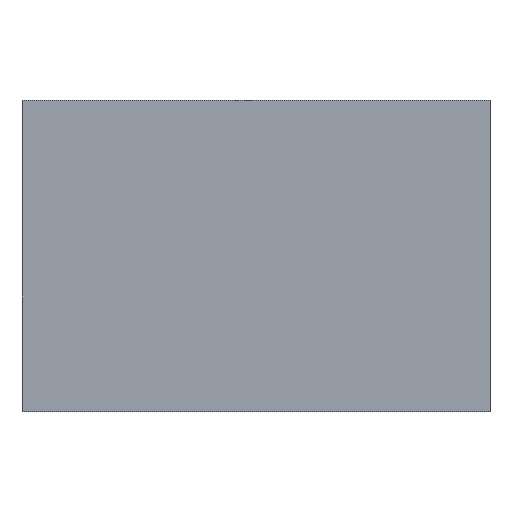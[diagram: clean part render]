
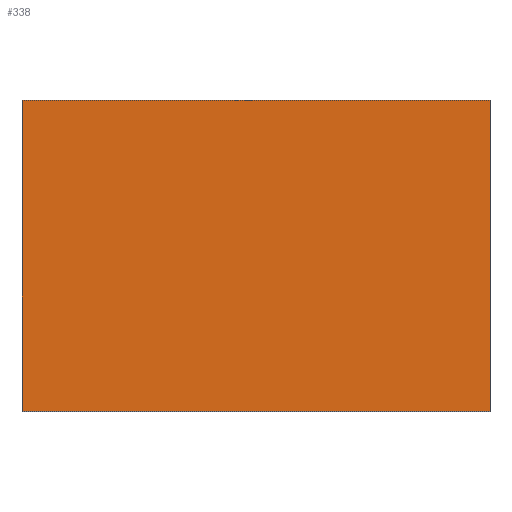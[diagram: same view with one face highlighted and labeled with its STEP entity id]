
A CAD part, top view. The second image highlights one B-rep face of the part: STEP entity #338.
In plain terms, the highlighted planar face has unit normal (0, 0, 1).
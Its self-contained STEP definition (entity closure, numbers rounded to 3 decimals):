
#24 = VERTEX_POINT('',#25);
#25 = CARTESIAN_POINT('',(-4.05,-2.69,2.16));
#32 = PLANE('',#33);
#33 = AXIS2_PLACEMENT_3D('',#34,#35,#36);
#34 = CARTESIAN_POINT('',(-4.05,-2.69,0.));
#35 = DIRECTION('',(1.,0.,0.));
#36 = DIRECTION('',(0.,0.,1.));
#44 = PLANE('',#45);
#45 = AXIS2_PLACEMENT_3D('',#46,#47,#48);
#46 = CARTESIAN_POINT('',(-4.05,-2.69,0.));
#47 = DIRECTION('',(0.,1.,0.));
#48 = DIRECTION('',(0.,0.,1.));
#85 = VERTEX_POINT('',#86);
#86 = CARTESIAN_POINT('',(-4.05,2.69,2.16));
#100 = PLANE('',#101);
#101 = AXIS2_PLACEMENT_3D('',#102,#103,#104);
#102 = CARTESIAN_POINT('',(-4.05,2.69,0.));
#103 = DIRECTION('',(0.,1.,0.));
#104 = DIRECTION('',(0.,0.,1.));
#112 = EDGE_CURVE('',#24,#85,#113,.T.);
#113 = SURFACE_CURVE('',#114,(#118,#125),.PCURVE_S1.);
#114 = LINE('',#115,#116);
#115 = CARTESIAN_POINT('',(-4.05,-2.69,2.16));
#116 = VECTOR('',#117,1.);
#117 = DIRECTION('',(0.,1.,0.));
#118 = PCURVE('',#32,#119);
#119 = DEFINITIONAL_REPRESENTATION('',(#120),#124);
#120 = LINE('',#121,#122);
#121 = CARTESIAN_POINT('',(2.16,0.));
#122 = VECTOR('',#123,1.);
#123 = DIRECTION('',(0.,-1.));
#124 = ( GEOMETRIC_REPRESENTATION_CONTEXT(2) 
PARAMETRIC_REPRESENTATION_CONTEXT() REPRESENTATION_CONTEXT('2D SPACE',''
  ) );
#125 = PCURVE('',#126,#131);
#126 = PLANE('',#127);
#127 = AXIS2_PLACEMENT_3D('',#128,#129,#130);
#128 = CARTESIAN_POINT('',(-4.05,-2.69,2.16));
#129 = DIRECTION('',(0.,0.,1.));
#130 = DIRECTION('',(1.,0.,0.));
#131 = DEFINITIONAL_REPRESENTATION('',(#132),#136);
#132 = LINE('',#133,#134);
#133 = CARTESIAN_POINT('',(0.,0.));
#134 = VECTOR('',#135,1.);
#135 = DIRECTION('',(0.,1.));
#136 = ( GEOMETRIC_REPRESENTATION_CONTEXT(2) 
PARAMETRIC_REPRESENTATION_CONTEXT() REPRESENTATION_CONTEXT('2D SPACE',''
  ) );
#144 = VERTEX_POINT('',#145);
#145 = CARTESIAN_POINT('',(4.05,-2.69,2.16));
#152 = PLANE('',#153);
#153 = AXIS2_PLACEMENT_3D('',#154,#155,#156);
#154 = CARTESIAN_POINT('',(4.05,-2.69,0.));
#155 = DIRECTION('',(1.,0.,0.));
#156 = DIRECTION('',(0.,0.,1.));
#195 = VERTEX_POINT('',#196);
#196 = CARTESIAN_POINT('',(4.05,2.69,2.16));
#217 = EDGE_CURVE('',#144,#195,#218,.T.);
#218 = SURFACE_CURVE('',#219,(#223,#230),.PCURVE_S1.);
#219 = LINE('',#220,#221);
#220 = CARTESIAN_POINT('',(4.05,-2.69,2.16));
#221 = VECTOR('',#222,1.);
#222 = DIRECTION('',(0.,1.,0.));
#223 = PCURVE('',#152,#224);
#224 = DEFINITIONAL_REPRESENTATION('',(#225),#229);
#225 = LINE('',#226,#227);
#226 = CARTESIAN_POINT('',(2.16,0.));
#227 = VECTOR('',#228,1.);
#228 = DIRECTION('',(0.,-1.));
#229 = ( GEOMETRIC_REPRESENTATION_CONTEXT(2) 
PARAMETRIC_REPRESENTATION_CONTEXT() REPRESENTATION_CONTEXT('2D SPACE',''
  ) );
#230 = PCURVE('',#126,#231);
#231 = DEFINITIONAL_REPRESENTATION('',(#232),#236);
#232 = LINE('',#233,#234);
#233 = CARTESIAN_POINT('',(8.1,0.));
#234 = VECTOR('',#235,1.);
#235 = DIRECTION('',(0.,1.));
#236 = ( GEOMETRIC_REPRESENTATION_CONTEXT(2) 
PARAMETRIC_REPRESENTATION_CONTEXT() REPRESENTATION_CONTEXT('2D SPACE',''
  ) );
#263 = EDGE_CURVE('',#24,#144,#264,.T.);
#264 = SURFACE_CURVE('',#265,(#269,#276),.PCURVE_S1.);
#265 = LINE('',#266,#267);
#266 = CARTESIAN_POINT('',(-4.05,-2.69,2.16));
#267 = VECTOR('',#268,1.);
#268 = DIRECTION('',(1.,0.,0.));
#269 = PCURVE('',#44,#270);
#270 = DEFINITIONAL_REPRESENTATION('',(#271),#275);
#271 = LINE('',#272,#273);
#272 = CARTESIAN_POINT('',(2.16,0.));
#273 = VECTOR('',#274,1.);
#274 = DIRECTION('',(0.,1.));
#275 = ( GEOMETRIC_REPRESENTATION_CONTEXT(2) 
PARAMETRIC_REPRESENTATION_CONTEXT() REPRESENTATION_CONTEXT('2D SPACE',''
  ) );
#276 = PCURVE('',#126,#277);
#277 = DEFINITIONAL_REPRESENTATION('',(#278),#282);
#278 = LINE('',#279,#280);
#279 = CARTESIAN_POINT('',(0.,0.));
#280 = VECTOR('',#281,1.);
#281 = DIRECTION('',(1.,0.));
#282 = ( GEOMETRIC_REPRESENTATION_CONTEXT(2) 
PARAMETRIC_REPRESENTATION_CONTEXT() REPRESENTATION_CONTEXT('2D SPACE',''
  ) );
#310 = EDGE_CURVE('',#85,#195,#311,.T.);
#311 = SURFACE_CURVE('',#312,(#316,#323),.PCURVE_S1.);
#312 = LINE('',#313,#314);
#313 = CARTESIAN_POINT('',(-4.05,2.69,2.16));
#314 = VECTOR('',#315,1.);
#315 = DIRECTION('',(1.,0.,0.));
#316 = PCURVE('',#100,#317);
#317 = DEFINITIONAL_REPRESENTATION('',(#318),#322);
#318 = LINE('',#319,#320);
#319 = CARTESIAN_POINT('',(2.16,0.));
#320 = VECTOR('',#321,1.);
#321 = DIRECTION('',(0.,1.));
#322 = ( GEOMETRIC_REPRESENTATION_CONTEXT(2) 
PARAMETRIC_REPRESENTATION_CONTEXT() REPRESENTATION_CONTEXT('2D SPACE',''
  ) );
#323 = PCURVE('',#126,#324);
#324 = DEFINITIONAL_REPRESENTATION('',(#325),#329);
#325 = LINE('',#326,#327);
#326 = CARTESIAN_POINT('',(0.,5.38));
#327 = VECTOR('',#328,1.);
#328 = DIRECTION('',(1.,0.));
#329 = ( GEOMETRIC_REPRESENTATION_CONTEXT(2) 
PARAMETRIC_REPRESENTATION_CONTEXT() REPRESENTATION_CONTEXT('2D SPACE',''
  ) );
#338 = ADVANCED_FACE('',(#339),#126,.T.);
#339 = FACE_BOUND('',#340,.T.);
#340 = EDGE_LOOP('',(#341,#342,#343,#344));
#341 = ORIENTED_EDGE('',*,*,#112,.F.);
#342 = ORIENTED_EDGE('',*,*,#263,.T.);
#343 = ORIENTED_EDGE('',*,*,#217,.T.);
#344 = ORIENTED_EDGE('',*,*,#310,.F.);
